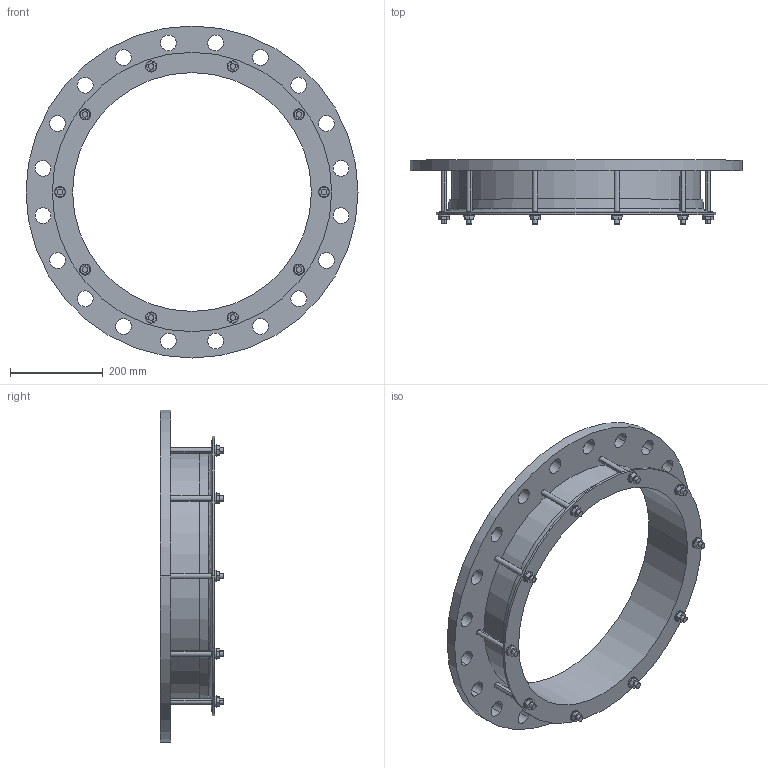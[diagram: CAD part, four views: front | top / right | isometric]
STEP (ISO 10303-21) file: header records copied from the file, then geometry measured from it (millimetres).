
FILE_DESCRIPTION((''),'2;1');
FILE_NAME('511X500PN16','2019-01-16T',('mfairey'),('Glynwed Pipe Systems'),'CREO PARAMETRIC BY PTC INC, 2016130','CREO PARAMETRIC BY PTC INC, 2016130','');
FILE_SCHEMA(('CONFIG_CONTROL_DESIGN'));
Length unit declared in the file: millimetre
Products named in the file (1): 511X500PN16
Bounding box: 715 x 137.45 x 715 mm (x, y, z)
Volume: 6550379.5 mm3; surface area: 949925.2 mm2
Topology: 1 solids, 1 shells, 208 faces, 548 edges, 364 vertices
Faces by surface type: cylinder 108, plane 94, cone 4, torus 2
Entity records: 7186 total; most frequent: CARTESIAN_POINT 1740, DIRECTION 1132, ORIENTED_EDGE 1096, EDGE_CURVE 548, AXIS2_PLACEMENT_3D 420, VERTEX_POINT 364, VECTOR 292, LINE 292
